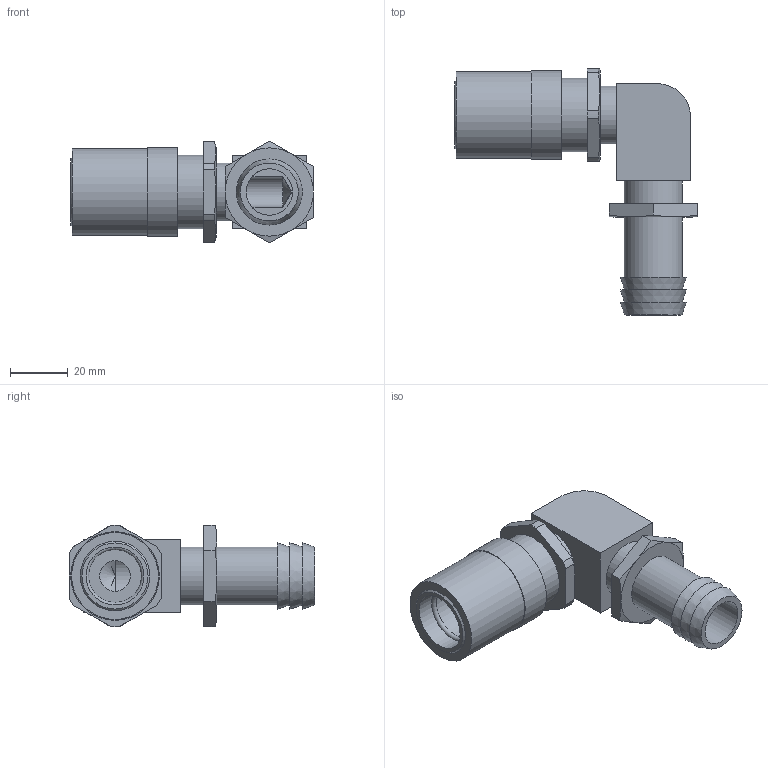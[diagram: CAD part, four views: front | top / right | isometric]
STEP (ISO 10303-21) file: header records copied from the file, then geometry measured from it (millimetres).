
FILE_DESCRIPTION(/* description */ ('STEP AP214'),/* implementation_level */ '2;1');
FILE_NAME(/* name */ 'SK219',/* time_stamp */ '2024-12-19T09:32:58+01:00',/* author */ ('License CC BY-ND 4.0'),/* organization */ ('CADENAS'),/* preprocessor_version */ 'ST-DEVELOPER v19.3',/* originating_system */ 'PARTsolutions',/* authorisation */ ' ');
FILE_SCHEMA (('AUTOMOTIVE_DESIGN {1 0 10303 214 3 1 1}'));
Length unit declared in the file: millimetre
Products named in the file (1): SK219
Bounding box: 83.84 x 84.88 x 35.19 mm (x, y, z)
Volume: 50385.7 mm3; surface area: 21669.7 mm2
Topology: 1 solids, 1 shells, 68 faces, 153 edges, 99 vertices
Faces by surface type: plane 32, cylinder 23, cone 12, torus 1
Full cylindrical faces by diameter (mm): 10.566 x1, 16 x1, 20 x5, 25.4 x1, 30 x1, 30.6 x1
Entity records: 1860 total; most frequent: CARTESIAN_POINT 368, DIRECTION 313, ORIENTED_EDGE 266, EDGE_CURVE 133, AXIS2_PLACEMENT_3D 130, EDGE_LOOP 99, FACE_BOUND 99, VERTEX_POINT 96
